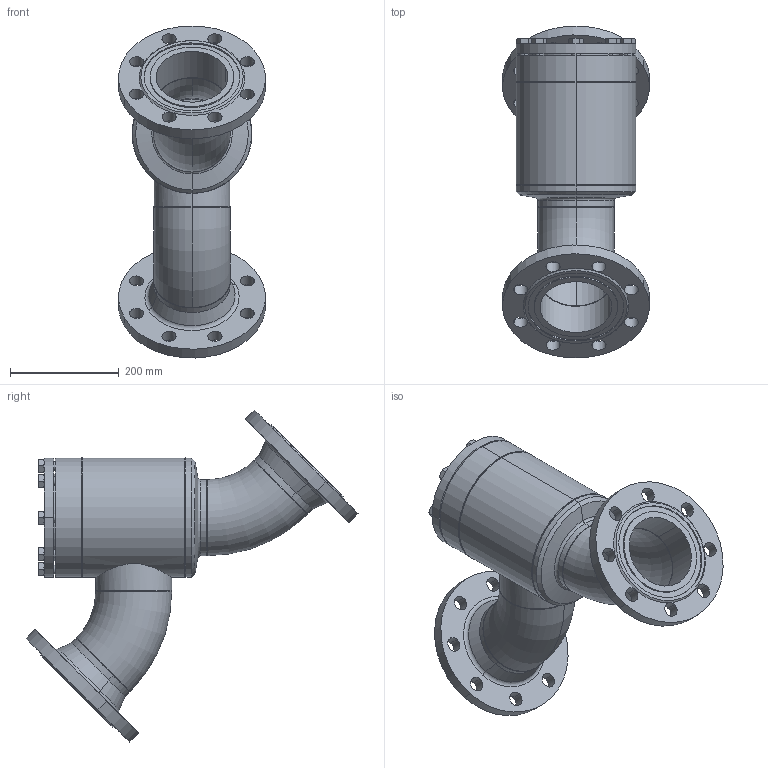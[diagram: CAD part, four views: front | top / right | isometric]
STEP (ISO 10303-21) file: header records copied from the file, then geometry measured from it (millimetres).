
FILE_DESCRIPTION (( 'STEP AP214' ), '1' );
FILE_NAME ('RV28320D20-DN125_DIN-FL-N_PS40.STEP', '2006-04-28T05:23:17', ( 'Herr Grams' ), ( 'AWP GmbH' ), 'SwSTEP 2.0', 'SolidWorks 2002296', '' );
FILE_SCHEMA (( 'AUTOMOTIVE_DESIGN' ));
Length unit declared in the file: millimetre
Products named in the file (21): RV28320D20-DN125_DIN-FL-N_PS40; Gehäuse-kpl16320-DN125_DIN_PS40_Standard; Gehäuse-kpl16300-DN125_R1_Standard; Gehäuse16300-DN125_Standard; Rohrstutzen-A16300-DN125_R1_Standard; Kopfstück16300-DN125_Standard; Boden16300-DN125_Standard; Rohrbogen 45°_Rohrbogen-DN125-45°; bead-DN125-1_Standard; bead-DN125-4_Standard; bead-DN125-3_Standard; bead-DN125-2_Standard; bead-DN125-6_Standard; Flansch-DIN-Nut_PS40_DIN-Flansch-DN125_PS40-Nut; bead-DN125-7_Standard; RV28300E20_Deck+Schr-DN125_Standard; Deckel-kpl28300E20-DN125_Standard; Scheibe f Deckel28300-DN125_Standard; Buchse f Deckel28300-DN125_Standard; bead-deck283-125_Standard; Sechskantschraube-DIN933_M16x 45
Assembly tree (29 placements, depth 4):
  RV28320D20-DN125_DIN-FL-N_PS40
    RV28300E20_Deck+Schr-DN125_Standard
      Sechskantschraube-DIN933_M16x 45  x8
      Deckel-kpl28300E20-DN125_Standard
        Buchse f Deckel28300-DN125_Standard
        Scheibe f Deckel28300-DN125_Standard
        bead-deck283-125_Standard
    Gehäuse-kpl16320-DN125_DIN_PS40_Standard
      Gehäuse-kpl16300-DN125_R1_Standard
        bead-DN125-4_Standard
        bead-DN125-2_Standard
        Rohrstutzen-A16300-DN125_R1_Standard
        Rohrbogen 45°_Rohrbogen-DN125-45°  x2
        Kopfstück16300-DN125_Standard
        bead-DN125-3_Standard
        Boden16300-DN125_Standard
        Gehäuse16300-DN125_Standard
        bead-DN125-1_Standard
      Flansch-DIN-Nut_PS40_DIN-Flansch-DN125_PS40-Nut  x2
      bead-DN125-7_Standard
      bead-DN125-6_Standard
Bounding box: 269.74 x 609.58 x 609.58 mm (x, y, z)
Volume: 7580419.8 mm3; surface area: 1333674.3 mm2
Topology: 25 solids, 25 shells, 405 faces, 904 edges, 550 vertices
Faces by surface type: cone 128, cylinder 119, plane 118, bspline 26, torus 14
Entity records: 9933 total; most frequent: CARTESIAN_POINT 4802, DIRECTION 906, ORIENTED_EDGE 848, EDGE_CURVE 424, AXIS2_PLACEMENT_3D 402, VERTEX_POINT 268, EDGE_LOOP 244, CIRCLE 206
